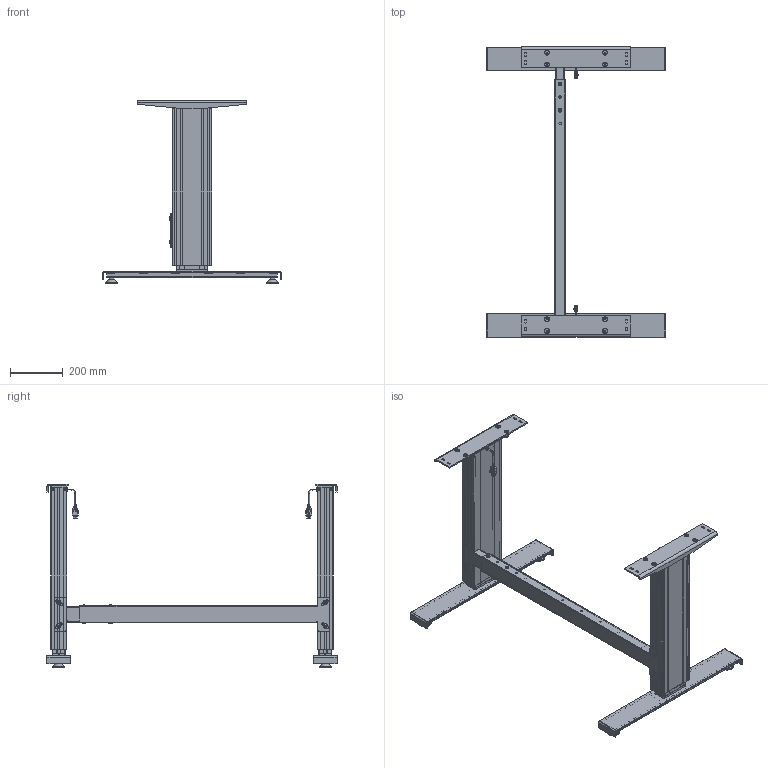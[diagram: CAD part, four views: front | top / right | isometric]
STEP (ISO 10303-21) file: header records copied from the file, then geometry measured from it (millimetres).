
FILE_DESCRIPTION(/* description */ ('Unknown'),/* implementation_level */ '2;1');
FILE_NAME(/* name */ 'Untergestell SC 2942 900-1550 XX XX_00-Eingefahren',/* time_stamp */ '2025-08-25T17:22:12+02:00',/* author */ ('Unknown'),/* organization */ ('Unknown'),/* preprocessor_version */ 'ST-DEVELOPER v20',/* originating_system */ 'Solid Edge',/* authorisation */ 'Unknown');
FILE_SCHEMA (('AUTOMOTIVE_DESIGN {1 0 10303 214 3 1 1}'));
Length unit declared in the file: millimetre
Products named in the file (32): Untergestell SC 2942 900-1550 XX XX; 922.00001_oa_0; 126.00166; 142.00166; 124.00129; Kabel Molex_gebogen; 119.00367; 124.00241_oa_1; 119.00368; 119.00366; 126.00167; 115.00165; 127.00223; 142.00279; 142.00068; 127.00545; 127.00548; 113.00006; 113.00006-ohne Mutter; Mutter M10; 127.00635; 060339~2; 060340~3; Sechskantmutter M6 DIN 934; Scheibe Ø6,4 DIN 125; Halbrundkopfschraube mit Innensechskant M8x12 ISO 7380-1; Scheibe Ø8,4 DIN 125; Nutenstein M8_montiert; Halbrundkopfschraube mit Innensechskant und Bund M6x16 ISO 7380-2; 922.00001_oa_2; 142.00159; 124.00241_oa_3
Assembly tree (77 placements, depth 4):
  Untergestell SC 2942 900-1550 XX XX
    922.00001_oa_0
      126.00166
      142.00166  x4
      124.00129
      Kabel Molex_gebogen
      119.00367  x2
      124.00241_oa_1
      119.00368  x2
      119.00366
      126.00167
    115.00165  x2
      127.00223
      142.00279
      142.00068
    127.00545  x2
      127.00548
      113.00006
        113.00006-ohne Mutter
        Mutter M10
    127.00635
      060339~2
      060340~3
      Sechskantmutter M6 DIN 934  x4
      Scheibe Ø6,4 DIN 125  x4
      Halbrundkopfschraube mit Innensechskant M8x12 ISO 7380-1  x4
      Scheibe Ø8,4 DIN 125  x4
      Nutenstein M8_montiert  x4
      Halbrundkopfschraube mit Innensechskant und Bund M6x16 ISO 7380-2  x4
    922.00001_oa_2
      126.00166
      142.00166  x4
      142.00159  x2
      124.00129
      Kabel Molex_gebogen
      119.00367  x2
      124.00241_oa_3
      119.00368  x2
      119.00366
      126.00167
Bounding box: 680 x 1100 x 695 mm (x, y, z)
Volume: 6201318.8 mm3; surface area: 3743229.5 mm2
Topology: 82 solids, 82 shells, 3322 faces, 8589 edges, 5579 vertices
Faces by surface type: plane 1756, cylinder 1014, cone 232, torus 196, bspline 120, sphere 4
Full cylindrical faces by diameter (mm): 4 x2, 4.5 x6, 5 x12, 5.3 x4, 5.5 x8, 6 x10, 6.3 x8, 6.4 x4, 6.647 x12, 7 x18, 7.5 x8, 8 x16, 8.376 x14, 8.5 x20, 8.7 x12, 9 x10, 9.5 x4, 10 x6, 12 x4, 13.6 x4, 14 x12, 15 x4, 16.8 x4, 19 x4, 24.5 x2, 25 x4, 29 x4, 35 x4, 39 x4, 47 x4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
Entity records: 46868 total; most frequent: CARTESIAN_POINT 9442, DIRECTION 6415, ORIENTED_EDGE 6250, EDGE_CURVE 3125, AXIS2_PLACEMENT_3D 2275, VERTEX_POINT 2120, LINE 1865, VECTOR 1865
